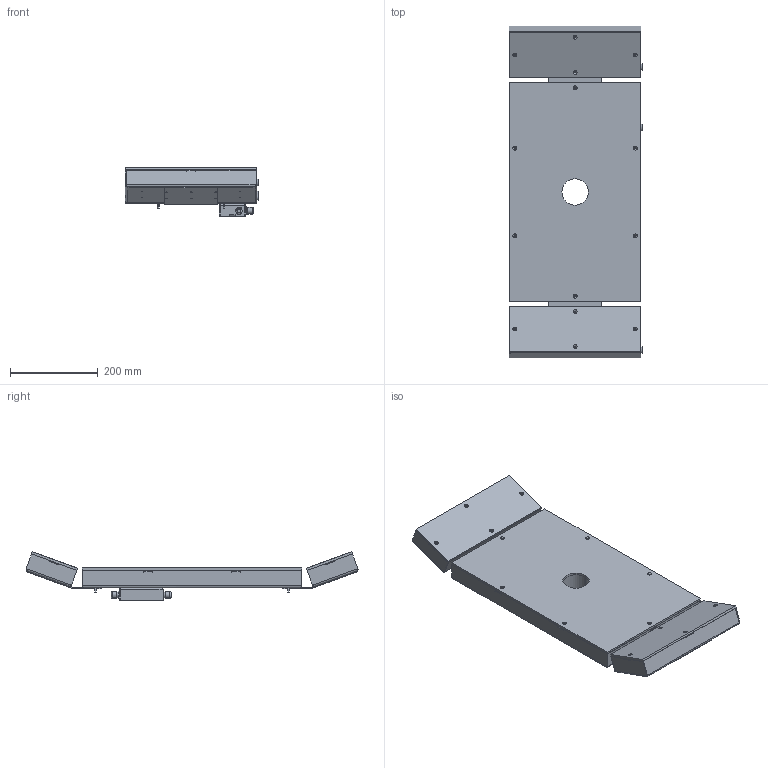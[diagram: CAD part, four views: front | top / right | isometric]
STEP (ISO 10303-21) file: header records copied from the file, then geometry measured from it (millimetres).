
FILE_DESCRIPTION (( 'STEP AP214' ), '1' );
FILE_NAME ('GM000589 White Toplight 650_800.STEP', '2022-01-24T14:53:19', ( '' ), ( '' ), 'SwSTEP 2.0', 'SolidWorks 2020', '' );
FILE_SCHEMA (( 'AUTOMOTIVE_DESIGN' ));
Length unit declared in the file: millimetre
Products named in the file (14): PD002287; PD001799; CE000436; PD002365; PD002286; CM000968; PD002366; PD002570; CM000966; CE000390; GM000589 White Toplight 650_800; CE000391; CM000965; PD002354
Assembly tree (27 placements, depth 2):
  GM000589 White Toplight 650_800
    PD001799
    PD002287
    PD002286
    CE000391
    CE000390  x2
    PD002354  x2
    PD002366  x2
    PD002365  x2
    CM000965  x3
    CM000966  x3
    PD002570
    CE000436  x2
    CM000968  x6
Bounding box: 304 x 756.4 x 110.34 mm (x, y, z)
Volume: 2107786.8 mm3; surface area: 1641653.3 mm2
Topology: 27 solids, 27 shells, 1630 faces, 4242 edges, 2712 vertices
Faces by surface type: plane 839, cylinder 707, bspline 32, cone 28, torus 24
Entity records: 34087 total; most frequent: CARTESIAN_POINT 7008, DIRECTION 5381, ORIENTED_EDGE 5218, EDGE_CURVE 2609, AXIS2_PLACEMENT_3D 1897, VERTEX_POINT 1660, VECTOR 1587, LINE 1587
